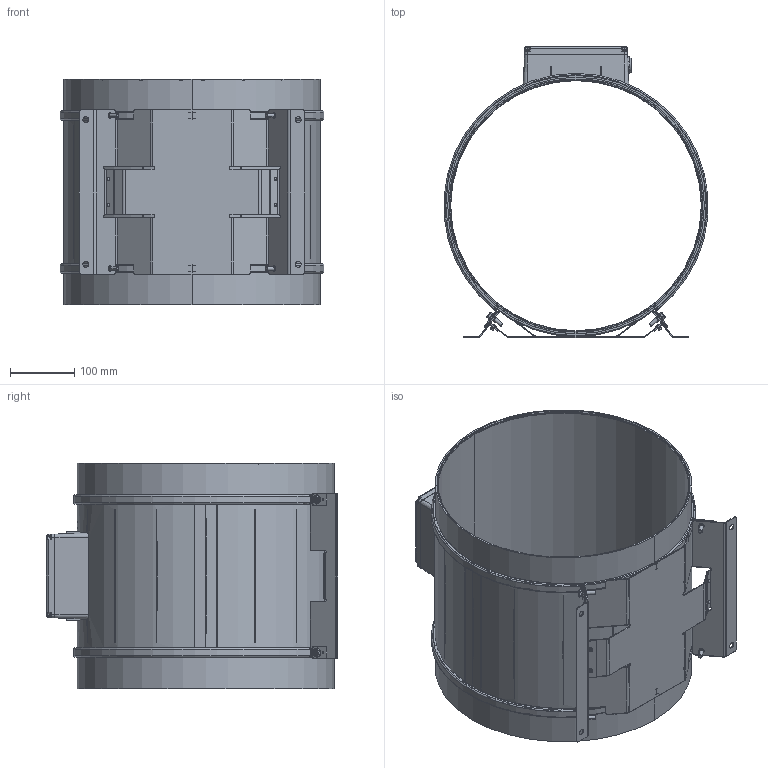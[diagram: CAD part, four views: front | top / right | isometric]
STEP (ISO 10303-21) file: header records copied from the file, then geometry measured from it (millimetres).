
FILE_DESCRIPTION (( 'STEP AP203' ), '1' );
FILE_NAME ('133668-01_EM400EC01.STEP', '2016-11-24T09:33:35', ( '' ), ( '' ), 'SwSTEP 2.0', 'SolidWorks 2012', '' );
FILE_SCHEMA (( 'CONFIG_CONTROL_DESIGN' ));
Length unit declared in the file: millimetre
Products named in the file (1): 133668-01_EM400EC01
Bounding box: 409.55 x 452.11 x 350 mm (x, y, z)
Surface area: 1178844.8 mm2 (no closed solid volume)
Topology: 0 solids, 35 shells, 768 faces, 3268 edges, 2421 vertices
Faces by surface type: plane 272, cylinder 220, torus 123, bspline 76, cone 73, sphere 4
Entity records: 41495 total; most frequent: CARTESIAN_POINT 16205, DIRECTION 5005, ORIENTED_EDGE 4719, EDGE_CURVE 3264, VERTEX_POINT 2421, AXIS2_PLACEMENT_3D 1721, LINE 1563, VECTOR 1563
